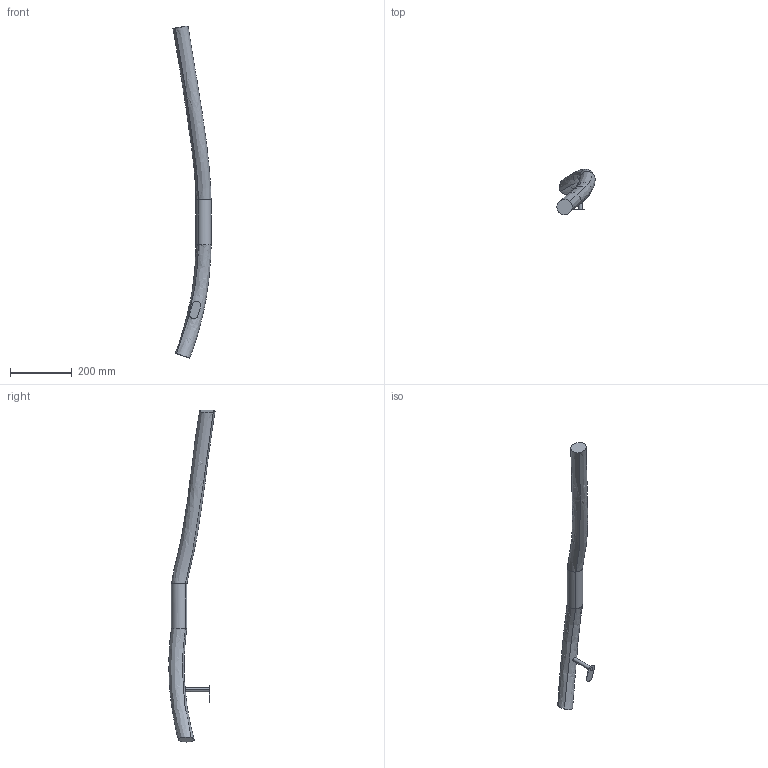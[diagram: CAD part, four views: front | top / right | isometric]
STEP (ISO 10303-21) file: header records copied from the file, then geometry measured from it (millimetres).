
FILE_DESCRIPTION (( 'STEP AP203' ), '1' );
FILE_NAME ('IRB6700_200_280_MH_CABLES_MH_link2.STEP', '2013-10-23T12:31:07', ( 'ABB' ), ( 'ABB' ), 'SwSTEP 2.0', 'SolidWorks 2012', '' );
FILE_SCHEMA (( 'CONFIG_CONTROL_DESIGN' ));
Length unit declared in the file: millimetre
Products named in the file (1): IRB6700_200_280_MH_CABLES_MH_link2
Bounding box: 123.81 x 150.09 x 1078.11 mm (x, y, z)
Volume: 2154895.7 mm3; surface area: 181343.7 mm2
Topology: 1 solids, 1 shells, 18 faces, 39 edges, 25 vertices
Faces by surface type: bspline 8, plane 8, cylinder 2
Entity records: 3919 total; most frequent: CARTESIAN_POINT 3522, ORIENTED_EDGE 78, EDGE_CURVE 39, DIRECTION 38, VERTEX_POINT 25, B_SPLINE_CURVE_WITH_KNOTS 25, EDGE_LOOP 20, ADVANCED_FACE 18
